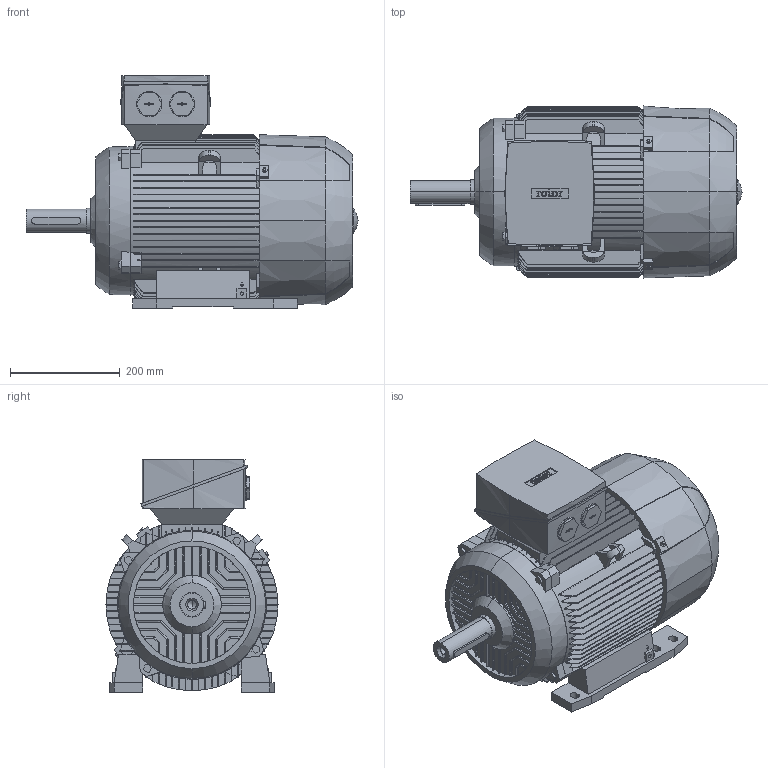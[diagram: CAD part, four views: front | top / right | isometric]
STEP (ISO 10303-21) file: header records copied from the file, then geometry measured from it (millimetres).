
FILE_DESCRIPTION (( 'STEP AP214' ), '1' );
FILE_NAME ('6RN160M02E32 IM1041.STEP', '2017-06-07T06:49:55', ( 'rotor' ), ( 'Hewlett-Packard Company' ), 'SwSTEP 2.0', 'SolidWorks 2015', '' );
FILE_SCHEMA (( 'AUTOMOTIVE_DESIGN' ));
Length unit declared in the file: millimetre
Products named in the file (1): 6RN160M02E32 IM1041
Bounding box: 606 x 314 x 425 mm (x, y, z)
Volume: 34434449.1 mm3; surface area: 1348786.9 mm2
Topology: 7 solids, 7 shells, 1313 faces, 3712 edges, 2441 vertices
Faces by surface type: plane 842, cylinder 261, bspline 184, cone 26
Entity records: 62717 total; most frequent: CARTESIAN_POINT 17329, ORIENTED_EDGE 7408, DIRECTION 5566, EDGE_CURVE 3704, VERTEX_POINT 2441, LINE 2254, VECTOR 2254, AXIS2_PLACEMENT_3D 1656
